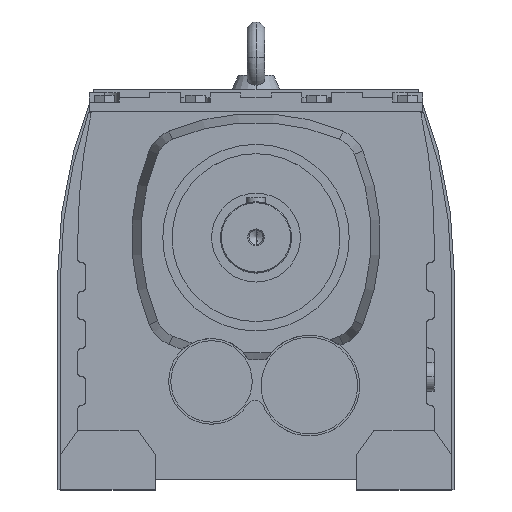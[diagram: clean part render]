
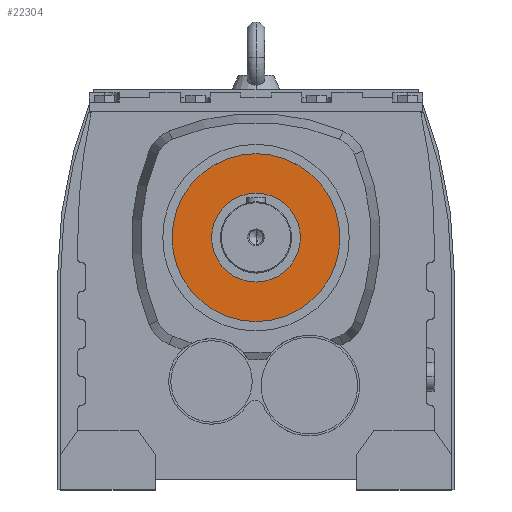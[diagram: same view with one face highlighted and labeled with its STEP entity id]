
A CAD part, top view. The second image highlights one B-rep face of the part: STEP entity #22304.
In plain terms, the highlighted planar face has unit normal (0, 0, 1).
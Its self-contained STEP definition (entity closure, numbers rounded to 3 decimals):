
#22017 = CYLINDRICAL_SURFACE('',#22018,141.75);
#22018 = AXIS2_PLACEMENT_3D('',#22019,#22020,#22021);
#22019 = CARTESIAN_POINT('',(0.,59.9,790.));
#22020 = DIRECTION('',(0.,0.,1.));
#22021 = DIRECTION('',(0.,-1.,0.));
#22047 = CYLINDRICAL_SURFACE('',#22048,141.75);
#22048 = AXIS2_PLACEMENT_3D('',#22049,#22050,#22051);
#22049 = CARTESIAN_POINT('',(0.,59.9,790.));
#22050 = DIRECTION('',(0.,0.,1.));
#22051 = DIRECTION('',(0.,-1.,0.));
#22210 = VERTEX_POINT('',#22211);
#22211 = CARTESIAN_POINT('',(0.,201.65,559.));
#22232 = VERTEX_POINT('',#22233);
#22233 = CARTESIAN_POINT('',(0.,-81.85,559.));
#22252 = EDGE_CURVE('',#22210,#22232,#22253,.T.);
#22253 = SURFACE_CURVE('',#22254,(#22259,#22265),.PCURVE_S1.);
#22254 = CIRCLE('',#22255,141.75);
#22255 = AXIS2_PLACEMENT_3D('',#22256,#22257,#22258);
#22256 = CARTESIAN_POINT('',(0.,59.9,559.));
#22257 = DIRECTION('',(0.,0.,-1.));
#22258 = DIRECTION('',(-1.,0.,0.));
#22259 = PCURVE('',#22017,#22260);
#22260 = DEFINITIONAL_REPRESENTATION('',(#22261),#22264);
#22261 = B_SPLINE_CURVE_WITH_KNOTS('',1,(#22262,#22263),.UNSPECIFIED.,
  .F.,.F.,(2,2),(1.571,4.712),
  .PIECEWISE_BEZIER_KNOTS.);
#22262 = CARTESIAN_POINT('',(3.142,-231.));
#22263 = CARTESIAN_POINT('',(0.,-231.));
#22264 = ( GEOMETRIC_REPRESENTATION_CONTEXT(2) 
PARAMETRIC_REPRESENTATION_CONTEXT() REPRESENTATION_CONTEXT('2D SPACE',''
  ) );
#22265 = PCURVE('',#22266,#22271);
#22266 = PLANE('',#22267);
#22267 = AXIS2_PLACEMENT_3D('',#22268,#22269,#22270);
#22268 = CARTESIAN_POINT('',(-61.146,37.046,559.));
#22269 = DIRECTION('',(0.,0.,-1.));
#22270 = DIRECTION('',(-1.,0.,0.));
#22271 = DEFINITIONAL_REPRESENTATION('',(#22272),#22276);
#22272 = CIRCLE('',#22273,141.75);
#22273 = AXIS2_PLACEMENT_2D('',#22274,#22275);
#22274 = CARTESIAN_POINT('',(-61.146,22.854));
#22275 = DIRECTION('',(1.,0.));
#22276 = ( GEOMETRIC_REPRESENTATION_CONTEXT(2) 
PARAMETRIC_REPRESENTATION_CONTEXT() REPRESENTATION_CONTEXT('2D SPACE',''
  ) );
#22281 = EDGE_CURVE('',#22232,#22210,#22282,.T.);
#22282 = SURFACE_CURVE('',#22283,(#22288,#22294),.PCURVE_S1.);
#22283 = CIRCLE('',#22284,141.75);
#22284 = AXIS2_PLACEMENT_3D('',#22285,#22286,#22287);
#22285 = CARTESIAN_POINT('',(0.,59.9,559.));
#22286 = DIRECTION('',(0.,0.,-1.));
#22287 = DIRECTION('',(-1.,0.,0.));
#22288 = PCURVE('',#22047,#22289);
#22289 = DEFINITIONAL_REPRESENTATION('',(#22290),#22293);
#22290 = B_SPLINE_CURVE_WITH_KNOTS('',1,(#22291,#22292),.UNSPECIFIED.,
  .F.,.F.,(2,2),(4.712,7.854),
  .PIECEWISE_BEZIER_KNOTS.);
#22291 = CARTESIAN_POINT('',(6.283,-231.));
#22292 = CARTESIAN_POINT('',(3.142,-231.));
#22293 = ( GEOMETRIC_REPRESENTATION_CONTEXT(2) 
PARAMETRIC_REPRESENTATION_CONTEXT() REPRESENTATION_CONTEXT('2D SPACE',''
  ) );
#22294 = PCURVE('',#22266,#22295);
#22295 = DEFINITIONAL_REPRESENTATION('',(#22296),#22300);
#22296 = CIRCLE('',#22297,141.75);
#22297 = AXIS2_PLACEMENT_2D('',#22298,#22299);
#22298 = CARTESIAN_POINT('',(-61.146,22.854));
#22299 = DIRECTION('',(1.,0.));
#22300 = ( GEOMETRIC_REPRESENTATION_CONTEXT(2) 
PARAMETRIC_REPRESENTATION_CONTEXT() REPRESENTATION_CONTEXT('2D SPACE',''
  ) );
#22304 = ADVANCED_FACE('',(#22305,#22309),#22266,.F.);
#22305 = FACE_BOUND('',#22306,.T.);
#22306 = EDGE_LOOP('',(#22307,#22308));
#22307 = ORIENTED_EDGE('',*,*,#22281,.F.);
#22308 = ORIENTED_EDGE('',*,*,#22252,.F.);
#22309 = FACE_BOUND('',#22310,.T.);
#22310 = EDGE_LOOP('',(#22311,#22345));
#22311 = ORIENTED_EDGE('',*,*,#22312,.F.);
#22312 = EDGE_CURVE('',#22313,#22315,#22317,.T.);
#22313 = VERTEX_POINT('',#22314);
#22314 = CARTESIAN_POINT('',(0.,-15.1,559.));
#22315 = VERTEX_POINT('',#22316);
#22316 = CARTESIAN_POINT('',(0.,134.9,559.));
#22317 = SURFACE_CURVE('',#22318,(#22323,#22334),.PCURVE_S1.);
#22318 = CIRCLE('',#22319,75.);
#22319 = AXIS2_PLACEMENT_3D('',#22320,#22321,#22322);
#22320 = CARTESIAN_POINT('',(0.,59.9,559.));
#22321 = DIRECTION('',(0.,0.,1.));
#22322 = DIRECTION('',(-1.,0.,0.));
#22323 = PCURVE('',#22266,#22324);
#22324 = DEFINITIONAL_REPRESENTATION('',(#22325),#22333);
#22325 = ( BOUNDED_CURVE() B_SPLINE_CURVE(2,(#22326,#22327,#22328,#22329
    ,#22330,#22331,#22332),.UNSPECIFIED.,.F.,.F.) 
B_SPLINE_CURVE_WITH_KNOTS((1,2,2,2,2,1),(-2.094,0.,
    2.094,4.189,6.283,8.378),
.UNSPECIFIED.) CURVE() GEOMETRIC_REPRESENTATION_ITEM() 
RATIONAL_B_SPLINE_CURVE((1.,0.5,1.,0.5,1.,0.5,1.)) REPRESENTATION_ITEM(
  '') );
#22326 = CARTESIAN_POINT('',(13.854,22.854));
#22327 = CARTESIAN_POINT('',(13.854,-107.05));
#22328 = CARTESIAN_POINT('',(-98.646,-42.098));
#22329 = CARTESIAN_POINT('',(-211.146,22.854));
#22330 = CARTESIAN_POINT('',(-98.646,87.806));
#22331 = CARTESIAN_POINT('',(13.854,152.758));
#22332 = CARTESIAN_POINT('',(13.854,22.854));
#22333 = ( GEOMETRIC_REPRESENTATION_CONTEXT(2) 
PARAMETRIC_REPRESENTATION_CONTEXT() REPRESENTATION_CONTEXT('2D SPACE',''
  ) );
#22334 = PCURVE('',#22335,#22340);
#22335 = CYLINDRICAL_SURFACE('',#22336,75.);
#22336 = AXIS2_PLACEMENT_3D('',#22337,#22338,#22339);
#22337 = CARTESIAN_POINT('',(0.,59.9,790.));
#22338 = DIRECTION('',(0.,0.,1.));
#22339 = DIRECTION('',(0.,-1.,0.));
#22340 = DEFINITIONAL_REPRESENTATION('',(#22341),#22344);
#22341 = B_SPLINE_CURVE_WITH_KNOTS('',1,(#22342,#22343),.UNSPECIFIED.,
  .F.,.F.,(2,2),(1.571,4.712),
  .PIECEWISE_BEZIER_KNOTS.);
#22342 = CARTESIAN_POINT('',(0.,-231.));
#22343 = CARTESIAN_POINT('',(3.142,-231.));
#22344 = ( GEOMETRIC_REPRESENTATION_CONTEXT(2) 
PARAMETRIC_REPRESENTATION_CONTEXT() REPRESENTATION_CONTEXT('2D SPACE',''
  ) );
#22345 = ORIENTED_EDGE('',*,*,#22346,.F.);
#22346 = EDGE_CURVE('',#22315,#22313,#22347,.T.);
#22347 = SURFACE_CURVE('',#22348,(#22353,#22364),.PCURVE_S1.);
#22348 = CIRCLE('',#22349,75.);
#22349 = AXIS2_PLACEMENT_3D('',#22350,#22351,#22352);
#22350 = CARTESIAN_POINT('',(0.,59.9,559.));
#22351 = DIRECTION('',(0.,0.,1.));
#22352 = DIRECTION('',(-1.,0.,0.));
#22353 = PCURVE('',#22266,#22354);
#22354 = DEFINITIONAL_REPRESENTATION('',(#22355),#22363);
#22355 = ( BOUNDED_CURVE() B_SPLINE_CURVE(2,(#22356,#22357,#22358,#22359
    ,#22360,#22361,#22362),.UNSPECIFIED.,.F.,.F.) 
B_SPLINE_CURVE_WITH_KNOTS((1,2,2,2,2,1),(-2.094,0.,
    2.094,4.189,6.283,8.378),
.UNSPECIFIED.) CURVE() GEOMETRIC_REPRESENTATION_ITEM() 
RATIONAL_B_SPLINE_CURVE((1.,0.5,1.,0.5,1.,0.5,1.)) REPRESENTATION_ITEM(
  '') );
#22356 = CARTESIAN_POINT('',(13.854,22.854));
#22357 = CARTESIAN_POINT('',(13.854,-107.05));
#22358 = CARTESIAN_POINT('',(-98.646,-42.098));
#22359 = CARTESIAN_POINT('',(-211.146,22.854));
#22360 = CARTESIAN_POINT('',(-98.646,87.806));
#22361 = CARTESIAN_POINT('',(13.854,152.758));
#22362 = CARTESIAN_POINT('',(13.854,22.854));
#22363 = ( GEOMETRIC_REPRESENTATION_CONTEXT(2) 
PARAMETRIC_REPRESENTATION_CONTEXT() REPRESENTATION_CONTEXT('2D SPACE',''
  ) );
#22364 = PCURVE('',#22365,#22370);
#22365 = CYLINDRICAL_SURFACE('',#22366,75.);
#22366 = AXIS2_PLACEMENT_3D('',#22367,#22368,#22369);
#22367 = CARTESIAN_POINT('',(0.,59.9,790.));
#22368 = DIRECTION('',(0.,0.,1.));
#22369 = DIRECTION('',(0.,-1.,0.));
#22370 = DEFINITIONAL_REPRESENTATION('',(#22371),#22374);
#22371 = B_SPLINE_CURVE_WITH_KNOTS('',1,(#22372,#22373),.UNSPECIFIED.,
  .F.,.F.,(2,2),(4.712,7.854),
  .PIECEWISE_BEZIER_KNOTS.);
#22372 = CARTESIAN_POINT('',(3.142,-231.));
#22373 = CARTESIAN_POINT('',(6.283,-231.));
#22374 = ( GEOMETRIC_REPRESENTATION_CONTEXT(2) 
PARAMETRIC_REPRESENTATION_CONTEXT() REPRESENTATION_CONTEXT('2D SPACE',''
  ) );
